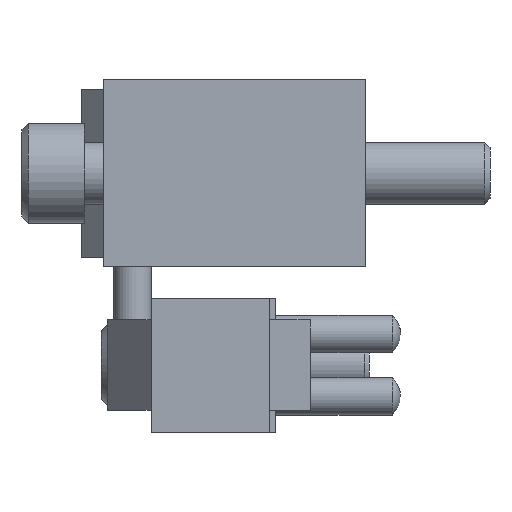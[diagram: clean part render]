
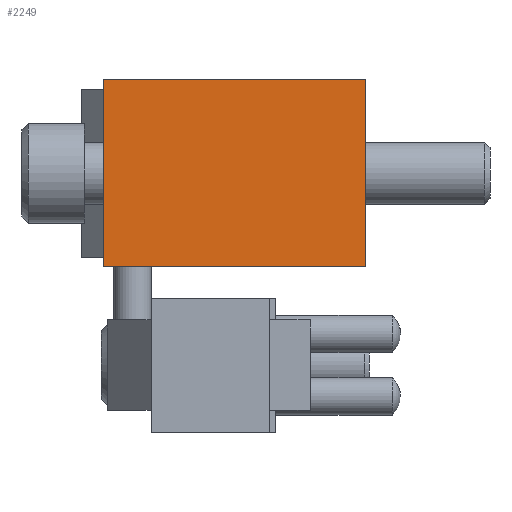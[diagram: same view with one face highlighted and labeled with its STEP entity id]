
A CAD part, left-side view. The second image highlights one B-rep face of the part: STEP entity #2249.
In plain terms, the highlighted planar face has unit normal (-1, 0, 0).
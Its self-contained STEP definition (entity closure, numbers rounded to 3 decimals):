
#2249 = ADVANCED_FACE( '', ( #4463 ), #4464, .F. );
#4463 = FACE_OUTER_BOUND( '', #6726, .T. );
#4464 = PLANE( '', #6727 );
#6726 = EDGE_LOOP( '', ( #12470, #12471, #12472, #12473 ) );
#6727 = AXIS2_PLACEMENT_3D( '', #12474, #12475, #12476 );
#12470 = ORIENTED_EDGE( '', *, *, #16127, .T. );
#12471 = ORIENTED_EDGE( '', *, *, #14232, .F. );
#12472 = ORIENTED_EDGE( '', *, *, #16372, .F. );
#12473 = ORIENTED_EDGE( '', *, *, #15944, .T. );
#12474 = CARTESIAN_POINT( '', ( 0., 42., -15. ) );
#12475 = DIRECTION( '', ( 1., 0., 0. ) );
#12476 = DIRECTION( '', ( 0., 0., -1. ) );
#14232 = EDGE_CURVE( '', #17160, #17155, #17162, .T. );
#15944 = EDGE_CURVE( '', #19819, #19817, #19820, .T. );
#16127 = EDGE_CURVE( '', #19817, #17155, #20053, .T. );
#16372 = EDGE_CURVE( '', #19819, #17160, #20356, .T. );
#17155 = VERTEX_POINT( '', #21405 );
#17160 = VERTEX_POINT( '', #21412 );
#17162 = LINE( '', #21415, #21416 );
#19817 = VERTEX_POINT( '', #25326 );
#19819 = VERTEX_POINT( '', #25329 );
#19820 = LINE( '', #25330, #25331 );
#20053 = LINE( '', #25692, #25693 );
#20356 = LINE( '', #26142, #26143 );
#21405 = CARTESIAN_POINT( '', ( 0., 0., 15. ) );
#21412 = CARTESIAN_POINT( '', ( 0., 42., 15. ) );
#21415 = CARTESIAN_POINT( '', ( 0., 42., 15. ) );
#21416 = VECTOR( '', #26788, 1000. );
#25326 = CARTESIAN_POINT( '', ( 0., 0., -15. ) );
#25329 = CARTESIAN_POINT( '', ( 0., 42., -15. ) );
#25330 = CARTESIAN_POINT( '', ( 0., 42., -15. ) );
#25331 = VECTOR( '', #28282, 1000. );
#25692 = CARTESIAN_POINT( '', ( 0., 0., -15. ) );
#25693 = VECTOR( '', #28411, 1000. );
#26142 = CARTESIAN_POINT( '', ( 0., 42., -15. ) );
#26143 = VECTOR( '', #28579, 1000. );
#26788 = DIRECTION( '', ( 0., -1., 0. ) );
#28282 = DIRECTION( '', ( 0., -1., 0. ) );
#28411 = DIRECTION( '', ( 0., 0., 1. ) );
#28579 = DIRECTION( '', ( 0., 0., 1. ) );
